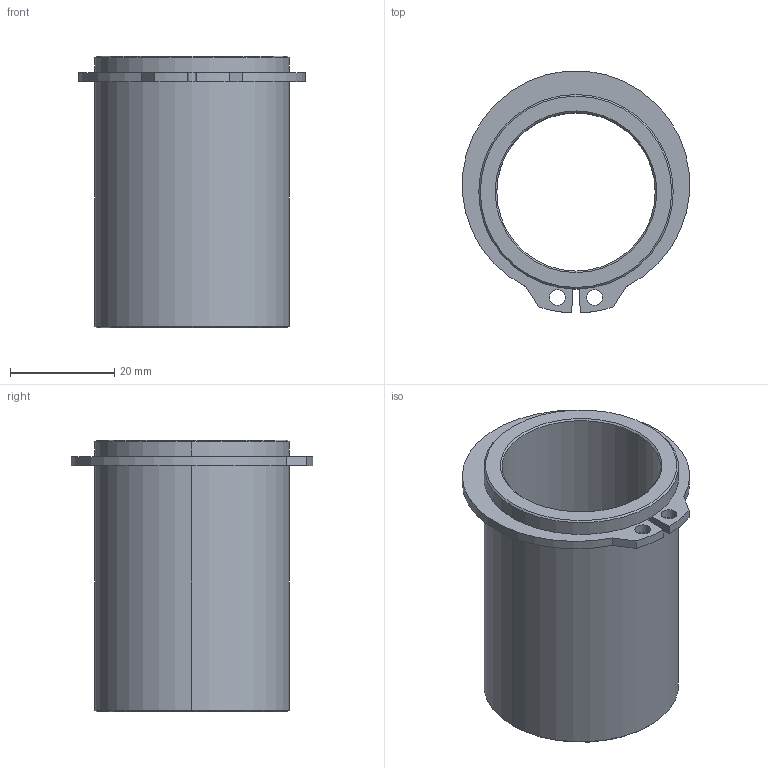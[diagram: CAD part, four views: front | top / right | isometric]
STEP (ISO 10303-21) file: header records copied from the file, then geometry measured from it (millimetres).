
FILE_DESCRIPTION((''),'2;1');
FILE_NAME('C13_030_052.stp','2008-12-17T15:06:41',(''),(''),'Mechanical Desktop 2009','Mechanical Desktop 2009',', , ');
FILE_SCHEMA(('CONFIG_CONTROL_DESIGN'));
Length unit declared in the file: millimetre
Products named in the file (2): Product; blmdl1
Assembly tree (1 placements, depth 2):
  Product
    blmdl1
Bounding box: 43.48 x 46.28 x 52 mm (x, y, z)
Volume: 19772.4 mm3; surface area: 13356.2 mm2
Topology: 2 solids, 2 shells, 34 faces, 76 edges, 48 vertices
Faces by surface type: cylinder 16, plane 10, cone 8
Entity records: 1075 total; most frequent: DIRECTION 188, CARTESIAN_POINT 160, ORIENTED_EDGE 152, AXIS2_PLACEMENT_3D 76, EDGE_CURVE 76, VERTEX_POINT 48, EDGE_LOOP 42, CIRCLE 40
